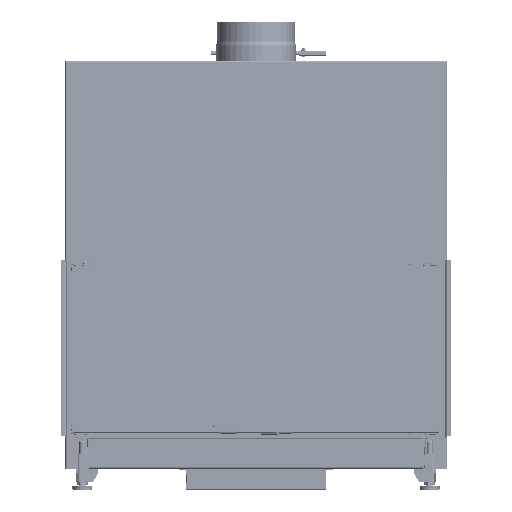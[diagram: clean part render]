
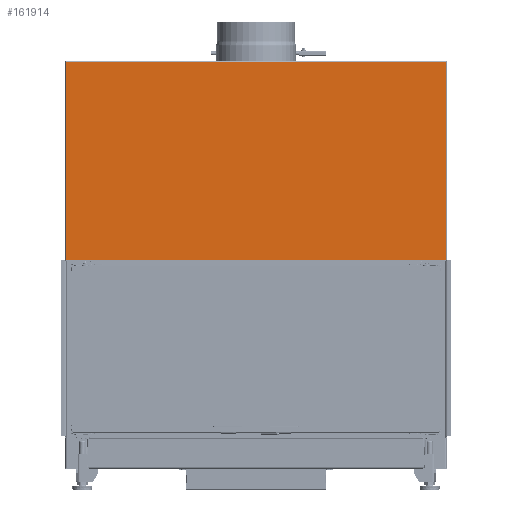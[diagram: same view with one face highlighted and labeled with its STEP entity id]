
A CAD part, front view. The second image highlights one B-rep face of the part: STEP entity #161914.
In plain terms, the highlighted planar face has unit normal (0, -1, 0).
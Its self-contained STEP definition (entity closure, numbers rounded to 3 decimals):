
#13121=FACE_OUTER_BOUND('',#22059,.T.);
#22059=EDGE_LOOP('',(#111241,#111242,#111243,#111244,#111245,#111246));
#32570=LINE('',#248787,#48665);
#32575=LINE('',#248875,#48670);
#32583=LINE('',#249094,#48678);
#32584=LINE('',#249096,#48679);
#32585=LINE('',#249100,#48680);
#32588=LINE('',#249106,#48683);
#48665=VECTOR('',#193565,10.);
#48670=VECTOR('',#193582,10.);
#48678=VECTOR('',#193604,10.);
#48679=VECTOR('',#193607,10.);
#48680=VECTOR('',#193614,10.);
#48683=VECTOR('',#193623,10.);
#65852=VERTEX_POINT('',#248768);
#65853=VERTEX_POINT('',#248779);
#65859=VERTEX_POINT('',#248868);
#65861=VERTEX_POINT('',#248874);
#65870=VERTEX_POINT('',#249085);
#65871=VERTEX_POINT('',#249092);
#82732=EDGE_CURVE('',#65853,#65852,#32570,.T.);
#82744=EDGE_CURVE('',#65861,#65852,#32575,.T.);
#82768=EDGE_CURVE('',#65870,#65871,#32583,.T.);
#82769=EDGE_CURVE('',#65859,#65861,#32584,.T.);
#82771=EDGE_CURVE('',#65871,#65859,#32585,.T.);
#82775=EDGE_CURVE('',#65853,#65870,#32588,.T.);
#111241=ORIENTED_EDGE('',*,*,#82769,.T.);
#111242=ORIENTED_EDGE('',*,*,#82744,.T.);
#111243=ORIENTED_EDGE('',*,*,#82732,.F.);
#111244=ORIENTED_EDGE('',*,*,#82775,.T.);
#111245=ORIENTED_EDGE('',*,*,#82768,.T.);
#111246=ORIENTED_EDGE('',*,*,#82771,.T.);
#151789=PLANE('',#172276);
#161914=ADVANCED_FACE('',(#13121),#151789,.T.);
#172276=AXIS2_PLACEMENT_3D('',#249105,#193621,#193622);
#193565=DIRECTION('',(1.,0.,0.));
#193582=DIRECTION('',(0.,0.,1.));
#193604=DIRECTION('',(0.,0.,-1.));
#193607=DIRECTION('',(0.,0.,1.));
#193614=DIRECTION('',(1.,0.,0.));
#193621=DIRECTION('center_axis',(0.,-1.,0.));
#193622=DIRECTION('ref_axis',(1.,0.,0.));
#193623=DIRECTION('',(0.,0.,-1.));
#248768=CARTESIAN_POINT('',(485.75,-328.496,1042.25));
#248779=CARTESIAN_POINT('',(-485.75,-328.496,1042.25));
#248787=CARTESIAN_POINT('',(0.,-328.496,1042.25));
#248868=CARTESIAN_POINT('',(485.75,-328.496,535.25));
#248874=CARTESIAN_POINT('',(485.75,-328.496,1041.57));
#248875=CARTESIAN_POINT('',(485.75,-328.496,683.846));
#249085=CARTESIAN_POINT('',(-485.75,-328.496,1041.57));
#249092=CARTESIAN_POINT('',(-485.75,-328.496,535.25));
#249094=CARTESIAN_POINT('',(-485.75,-328.496,937.346));
#249096=CARTESIAN_POINT('',(485.75,-328.496,683.846));
#249100=CARTESIAN_POINT('',(244.25,-328.496,535.25));
#249105=CARTESIAN_POINT('Origin',(0.,-328.496,
832.441));
#249106=CARTESIAN_POINT('',(-485.75,-328.496,937.346));
